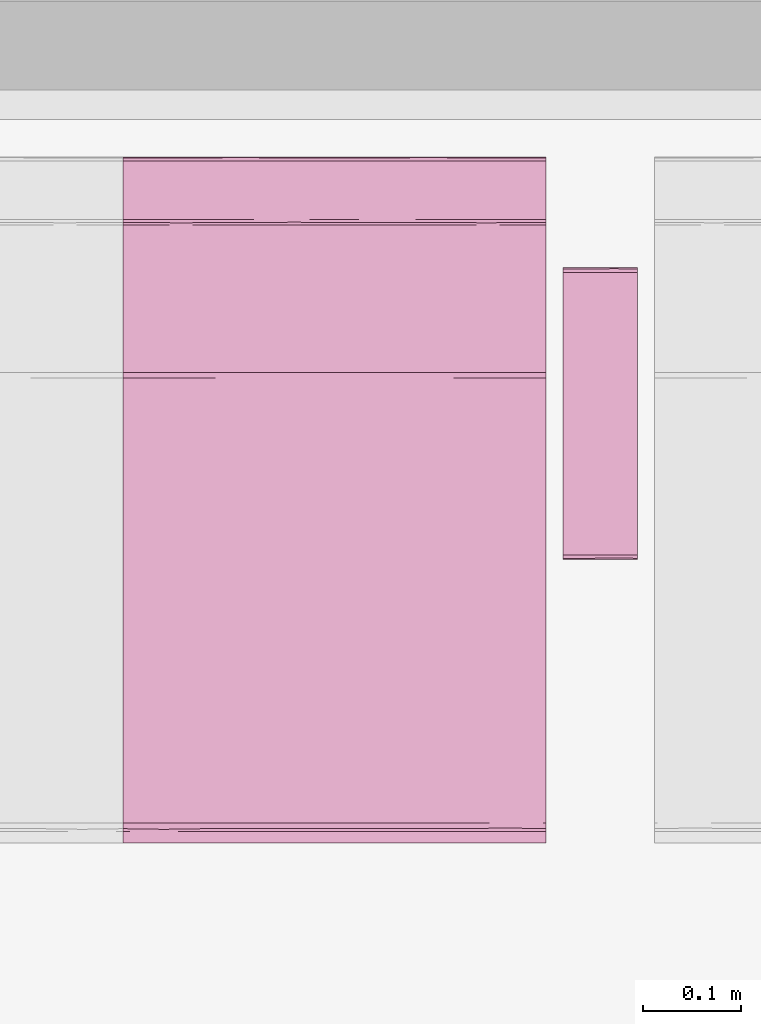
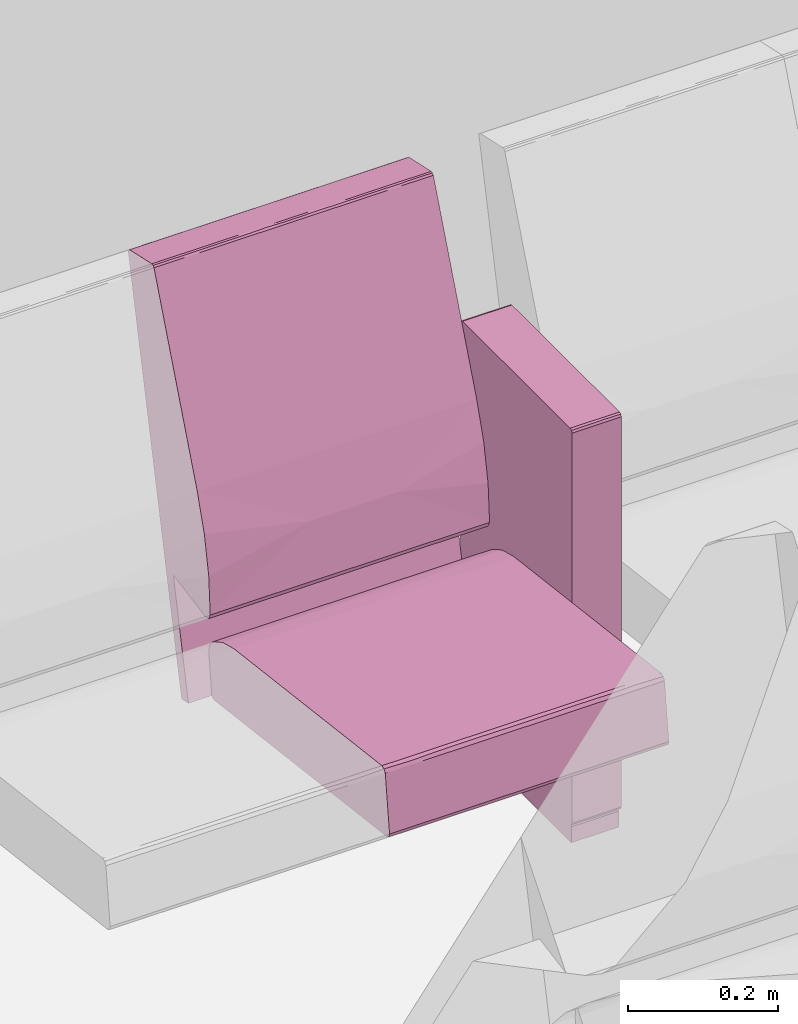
# One storey, part 118 of 155: 1 furnishing.
"""IFC2X3 building model written with IfcOpenShell, lengths in metres."""

from ifc_helpers import new_model, entity, si_unit, converted_unit, derived_unit, direction, frame, origin, place, context, subcontext, project, spatial, faceted_brep, source, transform, mapped, material, material_list, type_object, type_shapes, element, save


model = new_model("IFC2X3")

# Units and contexts
model_context = context("Model", 3, precision=1e-05, world=origin(), true_north=direction((6.12303176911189e-17, 1.0)))
body_context = subcontext(model_context, "Body", "Model", "MODEL_VIEW")
ifc_project = project(units=[si_unit("LENGTHUNIT", "METRE"), si_unit("AREAUNIT", "SQUARE_METRE"), si_unit("VOLUMEUNIT", "CUBIC_METRE"), converted_unit("PLANEANGLEUNIT", "DEGREE", entity("IfcRatioMeasure", 0.0174532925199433), si_unit("PLANEANGLEUNIT", "RADIAN"), dimensions=[0, 0, 0, 0, 0, 0, 0]), si_unit("MASSUNIT", "GRAM", prefix="KILO"), derived_unit("MASSDENSITYUNIT", [(si_unit("MASSUNIT", "GRAM", prefix="KILO"), 1), (si_unit("LENGTHUNIT", "METRE"), -3)]), si_unit("TIMEUNIT", "SECOND"), si_unit("FREQUENCYUNIT", "HERTZ"), si_unit("THERMODYNAMICTEMPERATUREUNIT", "DEGREE_CELSIUS"), derived_unit("THERMALTRANSMITTANCEUNIT", [(si_unit("MASSUNIT", "GRAM", prefix="KILO"), 1), (si_unit("THERMODYNAMICTEMPERATUREUNIT", "KELVIN"), -1), (si_unit("TIMEUNIT", "SECOND"), -3)]), derived_unit("VOLUMETRICFLOWRATEUNIT", [(si_unit("LENGTHUNIT", "METRE"), 3), (si_unit("TIMEUNIT", "SECOND"), -1)]), si_unit("ELECTRICCURRENTUNIT", "AMPERE"), si_unit("ELECTRICVOLTAGEUNIT", "VOLT"), si_unit("POWERUNIT", "WATT"), si_unit("FORCEUNIT", "NEWTON", prefix="KILO"), si_unit("ILLUMINANCEUNIT", "LUX"), si_unit("LUMINOUSFLUXUNIT", "LUMEN"), si_unit("LUMINOUSINTENSITYUNIT", "CANDELA"), derived_unit("USERDEFINED", [(si_unit("MASSUNIT", "GRAM", prefix="KILO"), -1), (si_unit("LENGTHUNIT", "METRE"), -2), (si_unit("TIMEUNIT", "SECOND"), 3), (si_unit("LUMINOUSFLUXUNIT", "LUMEN"), 1)]), derived_unit("LINEARVELOCITYUNIT", [(si_unit("LENGTHUNIT", "METRE"), 1), (si_unit("TIMEUNIT", "SECOND"), -1)]), si_unit("PRESSUREUNIT", "PASCAL"), derived_unit("USERDEFINED", [(si_unit("LENGTHUNIT", "METRE"), -2), (si_unit("MASSUNIT", "GRAM", prefix="KILO"), 1), (si_unit("TIMEUNIT", "SECOND"), -2)])], contexts=[model_context])

# Site, building, storey, space
site_placement = place(None, frame((26.9889013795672, -17.5624287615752, 0.0)))
site = spatial("IfcSite", under=ifc_project, at=site_placement, Name="Default", CompositionType="ELEMENT")
building_placement = place(site_placement, origin())
building = spatial("IfcBuilding", under=site, at=building_placement, Name="C. C. L. Monsenhor Antônio Sampaio", CompositionType="ELEMENT")
storey_placement = place(building_placement, frame((0.0, 0.0, 1.19999999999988)))
storey = spatial("IfcBuildingStorey", under=building, at=storey_placement, Name="Nível 1.2", CompositionType="ELEMENT", Elevation=1.19999999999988)
space_placement = place(storey_placement, origin())
space = spatial("IfcSpace", under=storey, at=space_placement, Name="94", CompositionType="ELEMENT", InteriorOrExteriorSpace="INTERNAL")

# Furnishing
ifc_material_1 = material(Name="V9 - V9 - Ecopelle_672_658")
ifc_material_2 = material(Name="V9 - V9 - RAL_9006_Grigio")
ifc_material_list_1 = material_list([ifc_material_1, ifc_material_2])
ifc_material_list_2 = material_list([ifc_material_1, ifc_material_2])
furniture_type = type_object("IfcFurnitureType", Name="Cadeira auditório", material=ifc_material_list_2)
shared_shape = source(origin(), body_context, "Body", "Brep", [
    faceted_brep([(0.405536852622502, -0.1075, 0.339809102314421), (0.410560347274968, -0.131924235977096, 0.34246450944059), (0.405536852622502, -0.156348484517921, 0.339809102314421), (0.41079981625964, -0.0179166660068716, 0.342749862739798), (0.410597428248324, -0.084060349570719, 0.342506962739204), (0.405536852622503, -0.0537499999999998, 0.339809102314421), (0.410248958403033, -0.173608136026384, 0.342130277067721), (0.405536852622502, -0.215, 0.339809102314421), (0.412515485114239, -0.143333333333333, 0.348529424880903), (0.412515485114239, -0.185674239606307, 0.348529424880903), (0.405536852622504, 0.1075, 0.33980910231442), (0.405536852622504, 0.156348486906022, 0.33980910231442), (0.410560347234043, 0.131924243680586, 0.342464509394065), (0.405536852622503, 0.0, 0.33980910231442), (0.411170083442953, 0.0341365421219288, 0.343251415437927), (0.41251548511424, 0.0, 0.348529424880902), (0.412515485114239, -0.0358333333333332, 0.348529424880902), (0.412515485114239, -0.0716666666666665, 0.348529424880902), (0.41251548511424, 0.143333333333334, 0.348529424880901), (0.41059742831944, 0.0840603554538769, 0.342506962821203), (0.405536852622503, 0.0537500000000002, 0.33980910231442), (0.410248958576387, 0.173608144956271, 0.342130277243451), (0.410799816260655, 0.215, 0.342749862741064), (0.412515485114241, 0.185674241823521, 0.348529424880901), (0.412515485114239, -0.215, 0.348529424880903), (0.410799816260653, -0.215, 0.342749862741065), (0.412515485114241, 0.215, 0.348529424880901), (0.41251548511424, 0.0716666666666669, 0.348529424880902), (0.405536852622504, 0.215, 0.33980910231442), (-0.0557900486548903, -0.215, 0.28268145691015), (-0.0557900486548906, -0.1881249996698, 0.282681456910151), (-0.0557900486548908, -0.161250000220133, 0.282681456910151), (-0.055790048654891, -0.134374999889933, 0.282681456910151), (-0.0557900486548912, -0.107499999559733, 0.282681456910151), (-0.0557900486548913, -0.0806250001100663, 0.282681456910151), (-0.0557900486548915, -0.0537499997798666, 0.282681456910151), (-0.0557900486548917, -0.0268749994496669, 0.282681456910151), (-0.0557900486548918, 0.0, 0.28268145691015), (-0.0557900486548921, 0.0268750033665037, 0.282681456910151), (-0.0557900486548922, 0.0537499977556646, 0.282681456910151), (-0.0557900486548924, 0.0806249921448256, 0.282681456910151), (-0.0557900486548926, 0.107499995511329, 0.282681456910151), (-0.0557900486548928, 0.138065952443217, 0.282681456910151), (-0.055790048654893, 0.168631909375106, 0.282681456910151), (-0.0557900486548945, 0.215, 0.28268145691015), (-0.0594787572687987, -0.0179017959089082, 0.283700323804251), (-0.0613666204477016, 0.0, 0.287029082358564), (-0.0594787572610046, 0.0152829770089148, 0.283700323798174), (-0.0594787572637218, -0.215, 0.283700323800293), (-0.0613666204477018, -0.215, 0.287029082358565), (-0.0613666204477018, -0.191815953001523, 0.287029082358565), (-0.0613666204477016, -0.030565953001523, 0.287029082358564), (-0.0593340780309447, -0.0671874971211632, 0.283591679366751), (-0.0593337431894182, 0.184174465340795, 0.283591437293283), (-0.0594787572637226, 0.215, 0.283700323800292), (-0.0593023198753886, 0.0940625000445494, 0.283568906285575), (-0.0613666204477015, 0.0611319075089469, 0.287029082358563), (-0.0613666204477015, 0.0916978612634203, 0.287029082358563), (-0.0613666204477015, 0.122263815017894, 0.287029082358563), (-0.0597338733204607, -0.147039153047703, 0.283913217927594), (-0.0613666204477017, -0.122263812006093, 0.287029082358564), (-0.059382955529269, -0.118123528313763, 0.28362747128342), (-0.0592501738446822, -0.180223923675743, 0.283532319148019), (-0.0613666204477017, -0.168631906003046, 0.287029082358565), (-0.0588783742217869, -0.0926899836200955, 0.283298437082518), (-0.0613666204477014, 0.168631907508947, 0.287029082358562), (-0.0613666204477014, 0.215, 0.287029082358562), (-0.0592576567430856, 0.123736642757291, 0.283537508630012), (-0.0594787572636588, 0.153348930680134, 0.283700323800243), (-0.0613666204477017, -0.0916978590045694, 0.287029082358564), (-0.0613666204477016, 0.0305659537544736, 0.287029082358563), (-0.059645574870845, 0.045848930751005, 0.283836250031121), (-0.0613666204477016, -0.0611319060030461, 0.287029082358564), (-0.0693403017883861, 0.143333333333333, 0.351419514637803), (-0.069340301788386, 0.215, 0.351419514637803), (-0.0693403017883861, -0.215, 0.351419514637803), (-0.0693403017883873, -0.143333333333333, 0.351419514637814), (-0.069340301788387, -0.0716666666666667, 0.351419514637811), (-0.0693403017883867, 0.0, 0.351419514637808), (-0.0693403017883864, 0.0716666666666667, 0.351419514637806), (-0.0653387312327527, -0.0126787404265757, 0.368680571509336), (-0.0645543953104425, -0.112272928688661, 0.369803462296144), (-0.0597085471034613, 0.0, 0.37476954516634), (-0.0655136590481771, 0.104400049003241, 0.368411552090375), (-0.0681665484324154, 0.0888707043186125, 0.36292533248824), (-0.0694879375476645, -0.0590582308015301, 0.356377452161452), (-0.0695056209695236, 0.125492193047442, 0.356093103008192), (-0.0597085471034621, 0.110316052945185, 0.374769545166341), (-0.0676206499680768, -0.215, 0.364371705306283), (-0.0672851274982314, -0.108066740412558, 0.365148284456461), (-0.0690003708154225, -0.132942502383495, 0.359900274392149), (-0.068624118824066, -0.215, 0.356813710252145), (-0.0686241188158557, 0.214999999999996, 0.356813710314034), (-0.0694502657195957, 0.0358333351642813, 0.356863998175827), (-0.0686999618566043, -0.035833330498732, 0.36116674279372), (-0.067620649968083, 0.214999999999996, 0.364371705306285), (-0.063664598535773, 0.214999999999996, 0.369570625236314), (-0.0597085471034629, 0.214999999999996, 0.374769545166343), (-0.0597085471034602, -0.110316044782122, 0.374769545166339), (-0.0636645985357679, -0.215, 0.36957062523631), (-0.0597085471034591, -0.215, 0.374769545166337), (-0.0018793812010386, -0.215, 0.398686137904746), (-0.0324117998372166, -0.0436847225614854, 0.39063968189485), (-0.0324117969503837, -0.215, 0.390639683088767), (-0.041847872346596, 0.0856576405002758, 0.386239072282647), (-0.00187938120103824, 0.102488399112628, 0.398686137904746), (-0.00187938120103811, 0.215, 0.398686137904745), (-0.0324117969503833, 0.215, 0.390639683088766), (-0.0219042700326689, 0.0570631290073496, 0.394412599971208), (-0.00187938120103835, 0.0, 0.398686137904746), (0.392202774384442, -0.215, 0.447486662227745), (0.392202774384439, -0.156349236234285, 0.447486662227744), (0.392202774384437, -0.107499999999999, 0.447486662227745), (0.392202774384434, -0.0537499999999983, 0.447486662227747), (0.392202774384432, 0.0, 0.447486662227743), (0.392202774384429, 0.0537500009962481, 0.44748666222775), (0.392202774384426, 0.107500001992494, 0.447486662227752), (0.392202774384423, 0.156349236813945, 0.447486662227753), (0.392202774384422, 0.215, 0.447486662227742), (0.397860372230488, 0.0827732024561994, 0.446039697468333), (0.401125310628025, 0.0976984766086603, 0.440530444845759), (0.398104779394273, 0.131924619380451, 0.445856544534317), (0.397373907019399, 0.173462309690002, 0.446363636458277), (0.401125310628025, 0.156349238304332, 0.440530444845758), (0.401125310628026, 0.215000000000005, 0.440530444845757), (0.398104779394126, 0.215000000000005, 0.445856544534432), (0.397860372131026, -0.0827731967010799, 0.446039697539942), (0.398104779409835, -0.131924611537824, 0.445856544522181), (0.398104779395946, -0.0268749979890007, 0.445856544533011), (0.398104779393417, 0.0237489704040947, 0.445856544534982), (0.401125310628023, -0.0488492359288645, 0.440530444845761), (0.401125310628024, 0.0488492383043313, 0.44053044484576), (0.398774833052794, -0.173462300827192, 0.445271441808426), (0.401125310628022, -0.0976984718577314, 0.440530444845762), (0.39810477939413, -0.215, 0.445856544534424), (0.401125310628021, -0.215, 0.440530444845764), (0.401125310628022, -0.156349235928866, 0.440530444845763), (0.401125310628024, 0.0, 0.44053044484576)], [[[0, 1, 2]], [[3, 4, 5]], [[2, 6, 7]], [[8, 9, 6]], [[10, 11, 12]], [[13, 3, 5]], [[3, 14, 15]], [[1, 4, 8]], [[6, 1, 8]], [[4, 3, 16]], [[16, 17, 8, 4]], [[12, 18, 19]], [[4, 1, 0]], [[20, 14, 13]], [[21, 22, 23]], [[15, 16, 3]], [[9, 24, 25]], [[26, 23, 22]], [[7, 6, 25]], [[12, 11, 21]], [[19, 14, 20]], [[4, 0, 5]], [[14, 27, 15]], [[13, 14, 3]], [[19, 18, 27]], [[19, 10, 12]], [[18, 21, 23]], [[10, 19, 20]], [[19, 27, 14]], [[2, 1, 6]], [[21, 11, 28]], [[25, 6, 9]], [[18, 12, 21]], [[22, 21, 28]], [[28, 11, 10, 20, 13, 5, 0, 2, 7, 29, 30, 31, 32, 33, 34, 35, 36, 37, 38, 39, 40, 41, 42, 43, 44]], [[45, 46, 47]], [[48, 49, 50]], [[51, 45, 52]], [[53, 54, 44]], [[55, 56, 57, 58]], [[59, 60, 61]], [[62, 63, 59]], [[34, 64, 52]], [[53, 65, 66]], [[41, 67, 42]], [[37, 36, 35, 45, 47, 38]], [[43, 42, 68]], [[29, 48, 30]], [[59, 31, 62]], [[62, 48, 50]], [[61, 69, 64]], [[65, 53, 68]], [[50, 63, 62]], [[62, 30, 48]], [[55, 58, 67]], [[32, 31, 59]], [[46, 70, 47]], [[65, 68, 58]], [[55, 40, 71]], [[70, 56, 71]], [[61, 33, 32]], [[59, 63, 60]], [[39, 38, 71, 40]], [[47, 71, 38]], [[51, 46, 45]], [[70, 71, 47]], [[71, 56, 55]], [[40, 55, 41]], [[67, 68, 42]], [[43, 68, 53]], [[43, 53, 44]], [[66, 54, 53]], [[68, 67, 58]], [[55, 67, 41]], [[72, 51, 52, 69]], [[62, 31, 30]], [[59, 61, 32]], [[35, 52, 45]], [[64, 34, 33]], [[34, 52, 35]], [[61, 60, 69]], [[52, 64, 69]], [[61, 64, 33]], [[73, 74, 66, 65, 58, 57, 56, 70, 46, 51, 72, 69, 60, 63, 50, 49, 75, 76, 77, 78, 79]], [[80, 81, 82]], [[83, 84, 80]], [[85, 78, 77, 76]], [[73, 79, 86]], [[80, 82, 83]], [[87, 83, 82]], [[88, 89, 90]], [[76, 75, 91]], [[92, 74, 73]], [[91, 90, 85]], [[80, 89, 81]], [[84, 93, 94]], [[84, 86, 93]], [[93, 78, 85]], [[73, 86, 92]], [[94, 93, 85]], [[95, 92, 84]], [[78, 93, 79]], [[80, 84, 94]], [[83, 96, 95]], [[94, 85, 90]], [[87, 97, 96]], [[98, 99, 100]], [[91, 85, 76]], [[94, 90, 89]], [[90, 91, 88]], [[89, 80, 94]], [[89, 99, 81]], [[89, 88, 99]], [[82, 81, 98]], [[81, 99, 98]], [[92, 86, 84]], [[93, 86, 79]], [[84, 83, 95]], [[96, 83, 87]], [[101, 102, 103]], [[104, 97, 87, 82]], [[105, 106, 107]], [[107, 108, 105]], [[109, 102, 101]], [[82, 102, 104]], [[102, 108, 104]], [[103, 102, 100]], [[97, 104, 107]], [[104, 108, 107]], [[102, 82, 98, 100]], [[105, 108, 109]], [[108, 102, 109]], [[109, 101, 110, 111, 112, 113, 114, 115, 116, 117, 118, 106, 105]], [[119, 120, 121]], [[122, 123, 124]], [[122, 125, 118]], [[126, 113, 112]], [[117, 121, 122]], [[121, 117, 116]], [[112, 111, 127]], [[113, 128, 129, 115, 114]], [[126, 130, 128]], [[129, 131, 119]], [[111, 132, 127]], [[132, 111, 110]], [[133, 126, 127]], [[123, 122, 121]], [[132, 134, 135]], [[127, 132, 136]], [[123, 121, 120]], [[127, 136, 133]], [[129, 128, 130, 137, 131]], [[112, 127, 126]], [[126, 133, 130]], [[119, 121, 116]], [[113, 126, 128]], [[119, 115, 129]], [[119, 116, 115]], [[120, 119, 131]], [[117, 122, 118]], [[124, 125, 122]], [[136, 132, 135]], [[110, 134, 132]], [[137, 130, 133, 136, 135, 24, 9, 8, 17, 16, 15, 27, 18, 23, 26, 124, 123, 120, 131]], [[44, 54, 66, 74, 92, 95, 96, 97, 107, 106, 118, 125, 124, 26, 22, 28]], [[75, 49, 48, 29, 7, 25, 24, 135, 134, 110, 101, 103, 100, 99, 88, 91]]]),
    faceted_brep([(0.119812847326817, 0.27, 0.674900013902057), (0.12334838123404, 0.259944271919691, 0.6734355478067), (0.123144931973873, 0.283972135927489, 0.673627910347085), (0.124812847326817, 0.27, 0.669900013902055), (0.119812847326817, 0.232, 0.674900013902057), (0.12334838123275, 0.232, 0.673435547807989), (0.124812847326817, 0.308, 0.669900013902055), (0.119812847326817, 0.308, 0.674900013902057), (0.124812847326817, 0.249888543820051, 0.669900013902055), (0.124812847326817, 0.232, 0.669900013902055), (0.12334838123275, 0.308, 0.673435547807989), (0.124812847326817, 0.232, 0.0349999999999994), (0.124812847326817, 0.27, 0.035), (0.124812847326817, 0.308, 0.035), (0.12334838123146, 0.25994427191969, 0.0314644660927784), (0.123540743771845, 0.283972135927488, 0.0316679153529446), (0.119812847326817, 0.27, 0.0300000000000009), (0.12334838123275, 0.232, 0.0314644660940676), (0.119812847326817, 0.308, 0.0300000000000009), (0.119812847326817, 0.249888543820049, 0.030000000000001), (0.119812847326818, 0.232, 0.030000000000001), (0.123348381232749, 0.308, 0.0314644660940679), (-0.167179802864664, 0.27, 0.0300000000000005), (-0.167179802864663, 0.308, 0.0300000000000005), (-0.167179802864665, 0.232, 0.0300000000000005), (-0.170715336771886, 0.25994427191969, 0.0314644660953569), (-0.17051188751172, 0.283972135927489, 0.0312721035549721), (-0.172179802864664, 0.27, 0.0350000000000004), (-0.170715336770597, 0.232, 0.0314644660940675), (-0.172179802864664, 0.308, 0.0350000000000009), (-0.172179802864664, 0.24988854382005, 0.0350000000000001), (-0.172179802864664, 0.232, 0.0349999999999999), (-0.170715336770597, 0.308, 0.0314644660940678), (-0.172179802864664, 0.308, 0.669900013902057), (-0.172179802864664, 0.232, 0.669900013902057), (-0.172179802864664, 0.27, 0.669900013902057), (-0.170715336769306, 0.259944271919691, 0.673435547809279), (-0.170907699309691, 0.283972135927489, 0.673232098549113), (-0.167179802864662, 0.27, 0.674900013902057), (-0.170715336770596, 0.232, 0.67343554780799), (-0.167179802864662, 0.308, 0.674900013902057), (-0.167179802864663, 0.249888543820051, 0.674900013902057), (-0.167179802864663, 0.232, 0.674900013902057), (-0.170715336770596, 0.308, 0.67343554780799)], [[[0, 1, 2]], [[3, 2, 1]], [[0, 4, 5, 1]], [[2, 3, 6]], [[0, 2, 7]], [[8, 3, 1, 5, 9]], [[7, 2, 10]], [[6, 10, 2]], [[9, 11, 12, 13, 6, 3, 8]], [[12, 14, 15]], [[16, 15, 14]], [[12, 11, 17, 14]], [[15, 16, 18]], [[12, 15, 13]], [[19, 16, 14, 17, 20]], [[13, 15, 21]], [[18, 21, 15]], [[22, 23, 18, 16, 19, 20, 24]], [[22, 25, 26]], [[27, 26, 25]], [[22, 24, 28, 25]], [[26, 27, 29]], [[22, 26, 23]], [[30, 27, 25, 28, 31]], [[23, 26, 32]], [[29, 32, 26]], [[33, 29, 27, 30, 31, 34, 35]], [[35, 36, 37]], [[38, 37, 36]], [[35, 34, 39, 36]], [[37, 38, 40]], [[35, 37, 33]], [[41, 38, 36, 39, 42]], [[33, 37, 43]], [[40, 43, 37]], [[0, 7, 40, 38, 41, 42, 4]], [[42, 39, 34, 31, 28, 24, 20, 17, 11, 9, 5, 4]], [[23, 32, 29, 33, 43, 40, 7, 10, 6, 13, 21, 18]]]),
    faceted_brep([(-0.0655618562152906, -0.215, 0.415143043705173), (-0.0744051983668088, -0.0524423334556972, 0.506888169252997), (-0.0695672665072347, -0.215, 0.476508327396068), (-0.0655618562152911, 0.0, 0.415143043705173), (-0.0744051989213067, 0.0780075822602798, 0.506888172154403), (-0.0655618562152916, 0.1075, 0.415143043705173), (-0.0655618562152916, 0.215, 0.415143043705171), (-0.0655618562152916, -0.1075, 0.415143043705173), (-0.0695672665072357, 0.215, 0.476508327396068), (-0.0811110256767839, 0.215, 0.536911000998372), (-0.0811110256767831, -0.215, 0.536911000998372), (-0.100016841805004, 0.0, 0.595428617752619), (-0.100016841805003, -0.215, 0.595428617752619), (-0.100016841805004, 0.215, 0.595428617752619), (-0.0792851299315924, -0.0716666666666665, 0.404772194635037), (-0.0792851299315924, 0.0, 0.404772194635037), (-0.0698317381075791, -0.0358333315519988, 0.406528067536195), (-0.0698317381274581, 0.215, 0.406528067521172), (-0.0792851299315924, 0.143333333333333, 0.404772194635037), (-0.0792851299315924, 0.215, 0.404772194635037), (-0.0698317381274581, -0.215, 0.406528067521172), (-0.0792851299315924, -0.215, 0.404772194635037), (-0.0792851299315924, -0.143333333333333, 0.404772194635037), (-0.0694171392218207, -0.140338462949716, 0.406857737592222), (-0.0708115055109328, 0.0356393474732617, 0.405868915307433), (-0.0703502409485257, 0.107500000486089, 0.406159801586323), (-0.0792851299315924, 0.0716666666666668, 0.404772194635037), (-0.163837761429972, 0.215, 0.420611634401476), (-0.163837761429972, -0.215, 0.420611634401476), (-0.123612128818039, -0.215, 0.235917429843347), (-0.123612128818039, 0.215, 0.235917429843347), (-0.142059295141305, -0.215, 0.231899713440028), (-0.142059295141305, 0.215, 0.231899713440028), (-0.235388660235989, -0.215, 0.652619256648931), (-0.235388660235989, 0.215, 0.652619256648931), (-0.28428001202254, 0.0, 0.873004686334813), (-0.284280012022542, 0.0268749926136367, 0.873004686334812), (-0.284280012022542, 0.0537499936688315, 0.873004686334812), (-0.284280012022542, 0.0806249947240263, 0.873004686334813), (-0.284280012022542, 0.107499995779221, 0.873004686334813), (-0.284280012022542, 0.134374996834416, 0.873004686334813), (-0.284280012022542, 0.161249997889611, 0.873004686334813), (-0.284280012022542, 0.191295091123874, 0.873004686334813), (-0.28428001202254, 0.215, 0.873004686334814), (-0.284280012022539, -0.215, 0.873004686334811), (-0.28428001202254, -0.191295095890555, 0.873004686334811), (-0.284280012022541, -0.161249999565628, 0.873004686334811), (-0.284280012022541, -0.134374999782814, 0.873004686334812), (-0.284280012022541, -0.1075, 0.873004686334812), (-0.284280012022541, -0.0806250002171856, 0.873004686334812), (-0.284280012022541, -0.0537500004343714, 0.873004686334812), (-0.284280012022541, -0.0268749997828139, 0.873004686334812), (-0.283504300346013, -0.0569644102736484, 0.877068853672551), (-0.283746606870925, -0.0872244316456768, 0.876674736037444), (-0.283641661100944, 0.12093750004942, 0.876855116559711), (-0.283567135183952, 0.15546176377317, 0.876973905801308), (-0.28330409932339, -0.185293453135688, 0.877344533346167), (-0.283567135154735, -0.155461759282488, 0.876973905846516), (-0.280514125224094, 0.0, 0.879190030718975), (-0.280514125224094, 0.0358333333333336, 0.879190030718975), (-0.283641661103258, 0.0136463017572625, 0.876855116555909), (-0.283641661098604, -0.0179166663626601, 0.876855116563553), (-0.280514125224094, -0.0358333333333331, 0.879190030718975), (-0.280514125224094, 0.1075, 0.879190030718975), (-0.280514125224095, 0.143333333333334, 0.879190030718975), (-0.283746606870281, 0.0872244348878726, 0.876674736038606), (-0.280514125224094, 0.071666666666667, 0.879190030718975), (-0.280514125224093, -0.1075, 0.879190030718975), (-0.280514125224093, -0.0716666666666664, 0.879190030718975), (-0.280514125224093, -0.143333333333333, 0.879190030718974), (-0.283641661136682, -0.120937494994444, 0.876855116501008), (-0.283641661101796, -0.215, 0.876855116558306), (-0.283641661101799, 0.215, 0.876855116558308), (-0.280514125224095, 0.167590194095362, 0.879190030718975), (-0.283304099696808, 0.18529345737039, 0.877344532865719), (-0.280514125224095, 0.215, 0.879190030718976), (-0.280514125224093, -0.167590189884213, 0.879190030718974), (-0.280514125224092, -0.215, 0.879190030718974), (-0.283504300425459, 0.0569644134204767, 0.8770688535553), (-0.221112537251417, -0.215, 0.892176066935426), (-0.221112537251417, -0.19181594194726, 0.892176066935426), (-0.221112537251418, -0.16124999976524, 0.892176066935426), (-0.221112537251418, -0.13437499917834, 0.892176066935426), (-0.221112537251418, -0.10749999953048, 0.892176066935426), (-0.221112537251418, -0.08062499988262, 0.892176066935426), (-0.221112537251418, -0.0537500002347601, 0.892176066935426), (-0.221112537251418, -0.0268750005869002, 0.892176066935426), (-0.221112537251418, 0.0, 0.892176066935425), (-0.221112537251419, 0.0268750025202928, 0.892176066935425), (-0.221112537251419, 0.053749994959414, 0.892176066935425), (-0.221112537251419, 0.0806249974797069, 0.892176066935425), (-0.221112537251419, 0.1075, 0.892176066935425), (-0.221112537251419, 0.134375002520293, 0.892176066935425), (-0.221112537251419, 0.161250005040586, 0.892176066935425), (-0.221112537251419, 0.191815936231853, 0.892176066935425), (-0.221112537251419, 0.215, 0.892176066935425), (-0.217722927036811, -0.0162353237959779, 0.891719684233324), (-0.215419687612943, -0.0358333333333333, 0.889191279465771), (-0.215419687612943, 0.0, 0.889191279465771), (-0.217722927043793, 0.0134375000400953, 0.891719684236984), (-0.217722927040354, 0.120937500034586, 0.89171968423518), (-0.217722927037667, 0.0912646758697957, 0.891719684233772), (-0.215419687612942, 0.0716666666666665, 0.88919127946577), (-0.215419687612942, 0.1075, 0.88919127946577), (-0.215419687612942, 0.143333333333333, 0.88919127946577), (-0.217722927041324, 0.215, 0.891719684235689), (-0.217722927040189, 0.182482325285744, 0.891719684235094), (-0.215419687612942, 0.168631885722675, 0.889191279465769), (-0.215419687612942, 0.191815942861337, 0.889191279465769), (-0.215419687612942, 0.215, 0.889191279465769), (-0.217722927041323, -0.215, 0.89171968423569), (-0.215419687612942, -0.215, 0.889191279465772), (-0.215419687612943, -0.191815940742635, 0.889191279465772), (-0.217722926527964, -0.190103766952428, 0.891719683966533), (-0.2179983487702, 0.039082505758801, 0.891853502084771), (-0.217816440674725, 0.0647800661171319, 0.891767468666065), (-0.217558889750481, 0.155982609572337, 0.891629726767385), (-0.217722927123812, -0.120937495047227, 0.891719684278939), (-0.217558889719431, -0.15598260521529, 0.891629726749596), (-0.215419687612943, -0.143333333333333, 0.889191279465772), (-0.215419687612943, -0.16863188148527, 0.889191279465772), (-0.215419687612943, -0.0716666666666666, 0.889191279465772), (-0.217816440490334, -0.0647800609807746, 0.891767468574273), (-0.217722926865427, -0.0912646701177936, 0.891719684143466), (-0.215419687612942, 0.0358333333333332, 0.889191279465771), (-0.215419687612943, -0.1075, 0.889191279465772), (-0.218257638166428, -0.0404491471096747, 0.891961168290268)], [[[0, 1, 2]], [[3, 4, 1]], [[4, 3, 5, 6]], [[1, 0, 7, 3]], [[8, 4, 6]], [[9, 4, 8]], [[1, 10, 2]], [[1, 11, 12]], [[9, 13, 4]], [[13, 11, 4]], [[10, 1, 12]], [[11, 1, 4]], [[14, 15, 16]], [[17, 18, 19]], [[20, 21, 22]], [[20, 23, 0]], [[3, 7, 16]], [[15, 24, 16]], [[24, 25, 5]], [[22, 23, 20]], [[7, 23, 16]], [[6, 5, 17]], [[16, 24, 3]], [[16, 23, 14]], [[23, 22, 14]], [[18, 25, 26]], [[18, 17, 25]], [[26, 24, 15]], [[7, 0, 23]], [[5, 25, 17]], [[25, 24, 26]], [[3, 24, 5]], [[27, 19, 18, 26, 15, 14, 22, 21, 28]], [[27, 28, 29, 30]], [[31, 32, 30, 29]], [[33, 34, 32, 31]], [[35, 36, 37, 38, 39, 40, 41, 42, 43, 34, 33, 44, 45, 46, 47, 48, 49, 50, 51]], [[52, 49, 53]], [[54, 55, 40]], [[46, 56, 57]], [[58, 59, 60, 61, 62]], [[54, 63, 64]], [[65, 66, 63]], [[67, 68, 53]], [[57, 69, 70]], [[45, 56, 46]], [[39, 54, 40]], [[45, 44, 71]], [[72, 43, 42]], [[35, 51, 61, 60, 36]], [[55, 73, 74]], [[39, 65, 54]], [[74, 73, 75]], [[67, 53, 70]], [[74, 42, 41]], [[64, 73, 55]], [[56, 76, 57]], [[74, 72, 42]], [[76, 56, 77]], [[56, 71, 77]], [[57, 76, 69]], [[48, 70, 53]], [[70, 48, 47]], [[60, 78, 36]], [[63, 54, 65]], [[71, 56, 45]], [[41, 55, 74]], [[72, 74, 75]], [[57, 70, 47]], [[47, 46, 57]], [[69, 67, 70]], [[50, 49, 52, 51]], [[52, 62, 61]], [[61, 51, 52]], [[55, 41, 40]], [[55, 54, 64]], [[66, 65, 78]], [[65, 38, 78]], [[52, 53, 68]], [[37, 36, 78, 38]], [[78, 59, 66]], [[59, 78, 60]], [[49, 48, 53]], [[65, 39, 38]], [[52, 68, 62]], [[79, 80, 81, 82, 83, 84, 85, 86, 87, 88, 89, 90, 91, 92, 93, 94, 95, 75, 73, 64, 63, 66, 59, 58, 62, 68, 67, 69, 76, 77]], [[96, 97, 98, 99]], [[100, 101, 102, 103, 104]], [[105, 106, 107, 108, 109]], [[110, 111, 112]], [[80, 110, 113]], [[89, 114, 115]], [[92, 116, 93]], [[94, 93, 106, 105, 95]], [[80, 79, 110]], [[92, 91, 90, 101, 100]], [[99, 88, 87, 86, 96]], [[104, 107, 116]], [[117, 83, 82]], [[117, 118, 119]], [[112, 120, 113]], [[118, 120, 119]], [[118, 81, 113]], [[116, 107, 106]], [[101, 90, 115]], [[121, 122, 123]], [[104, 116, 100]], [[110, 112, 113]], [[114, 99, 124]], [[92, 100, 116]], [[117, 125, 123]], [[82, 81, 118]], [[118, 117, 82]], [[83, 117, 123]], [[125, 117, 119]], [[102, 101, 115]], [[84, 83, 123]], [[123, 125, 121]], [[85, 84, 122]], [[89, 115, 90]], [[96, 86, 126]], [[124, 102, 115]], [[88, 99, 114]], [[99, 98, 124]], [[122, 121, 97]], [[126, 122, 97]], [[88, 114, 89]], [[115, 114, 124]], [[123, 122, 84]], [[126, 85, 122]], [[85, 126, 86]], [[96, 126, 97]], [[116, 106, 93]], [[80, 113, 81]], [[118, 113, 120]], [[12, 11, 13, 109, 108, 107, 104, 103, 102, 124, 98, 97, 121, 125, 119, 120, 112, 111]], [[30, 32, 34, 43, 72, 75, 95, 105, 109, 13, 9, 8, 6, 17, 19, 27]], [[77, 71, 44, 33, 31, 29, 28, 21, 20, 0, 2, 10, 12, 111, 110, 79]]]),
    faceted_brep([(0.120312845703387, 0.2335, 0.0), (0.120312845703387, 0.3065, 0.0), (0.120312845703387, 0.3065, 0.0260000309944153), (0.120312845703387, 0.27, 0.0260000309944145), (0.120312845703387, 0.249500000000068, 0.0260000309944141), (0.120312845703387, 0.2335, 0.0260000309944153), (-0.167687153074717, 0.2335, 0.0), (-0.167687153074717, 0.3065, 0.0), (-0.167687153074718, 0.3065, 0.0260000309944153), (-0.167687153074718, 0.2335, 0.0260000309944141), (-0.167687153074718, 0.27, 0.0260000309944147), (-0.163702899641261, 0.233500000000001, 0.0300000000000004), (-0.166521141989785, 0.257382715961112, 0.0288228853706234), (-0.166521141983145, 0.233500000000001, 0.0288228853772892), (-0.166521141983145, 0.3065, 0.0288228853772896), (-0.16652114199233, 0.279986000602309, 0.0288228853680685), (-0.163702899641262, 0.3065, 0.0300000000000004), (-0.163702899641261, 0.27, 0.0300000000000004), (0.116297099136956, 0.2335, 0.0300000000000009), (0.116297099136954, 0.270000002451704, 0.0300000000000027), (0.116297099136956, 0.3065, 0.0300000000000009), (0.119033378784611, 0.283124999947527, 0.0289323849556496), (0.119135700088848, 0.259750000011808, 0.0288340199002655), (0.1191357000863, 0.2335, 0.0288340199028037), (0.119135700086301, 0.3065, 0.0288340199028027)], [[[0, 1, 2, 3, 4, 5]], [[6, 7, 1, 0]], [[8, 7, 6, 9, 10]], [[11, 12, 13]], [[14, 15, 16]], [[17, 16, 15, 12, 11]], [[13, 12, 10, 9]], [[8, 15, 14]], [[12, 15, 8, 10]], [[16, 17, 11, 18, 19, 20]], [[3, 2, 21]], [[22, 19, 18, 23]], [[22, 23, 5, 4, 3]], [[20, 21, 24]], [[22, 3, 21]], [[19, 21, 20]], [[2, 24, 21]], [[19, 22, 21]], [[20, 24, 2, 1, 7, 8, 14, 16]], [[18, 11, 13, 9, 6, 0, 5, 23]]]),
])
type_shapes(furniture_type, [shared_shape])
furnishing_placement = place(space_placement, frame((-12.9959492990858, -10.4255921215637, 0.0), z_axis=(0.0, 0.0, 1.0), x_axis=(0.0, -1.0, 0.0)))
element("IfcFurnishingElement", 1, at=furnishing_placement, inside=space, type_object=furniture_type, material=ifc_material_list_1, Name="cadeira auditório pcd:Cadeira auditório", ObjectType="Cadeira auditório", context=body_context, shape_type="MappedRepresentation", body=[
    mapped(shared_shape, transform((0.0, 0.0, 0.0), scale=1.0)),
])

save(model, "model.ifc")
